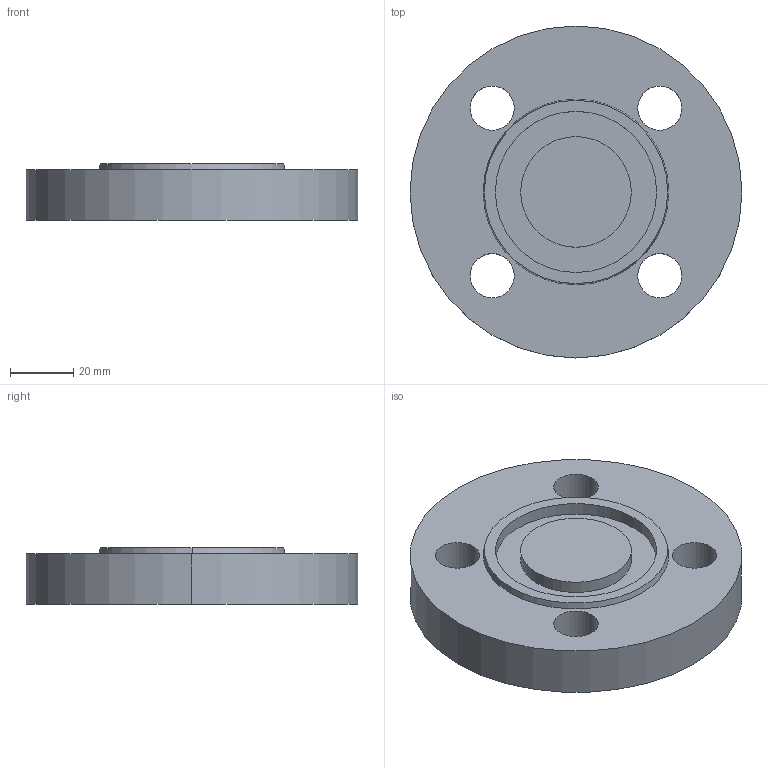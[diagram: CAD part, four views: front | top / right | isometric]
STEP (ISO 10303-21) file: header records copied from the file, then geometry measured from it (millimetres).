
FILE_DESCRIPTION (( 'STEP AP214' ), '1' );
FILE_NAME ('PN40 DN20 Type 05 - Type D Face.STEP', '2018-12-29T18:24:15', ( '' ), ( '' ), 'SwSTEP 2.0', 'SolidWorks 2019', '' );
FILE_SCHEMA (( 'AUTOMOTIVE_DESIGN' ));
Length unit declared in the file: millimetre
Products named in the file (1): PN40 DN20 Type 05 - Type D Face
Bounding box: 105 x 105 x 18 mm (x, y, z)
Volume: 129718 mm3; surface area: 25567.6 mm2
Topology: 1 solids, 1 shells, 21 faces, 48 edges, 32 vertices
Faces by surface type: cylinder 14, plane 5, cone 2
Entity records: 664 total; most frequent: DIRECTION 124, CARTESIAN_POINT 102, ORIENTED_EDGE 96, AXIS2_PLACEMENT_3D 54, EDGE_CURVE 48, CIRCLE 32, EDGE_LOOP 32, VERTEX_POINT 32
